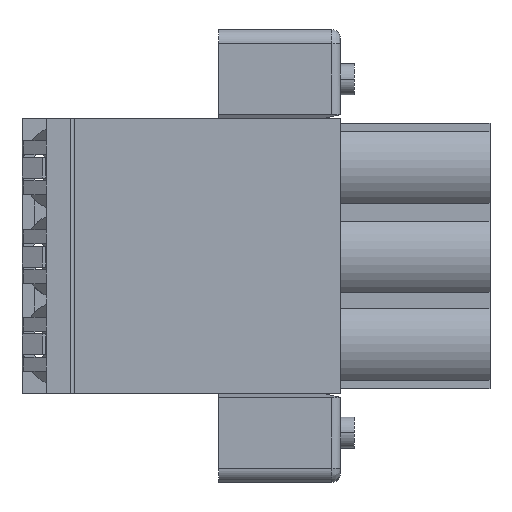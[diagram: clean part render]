
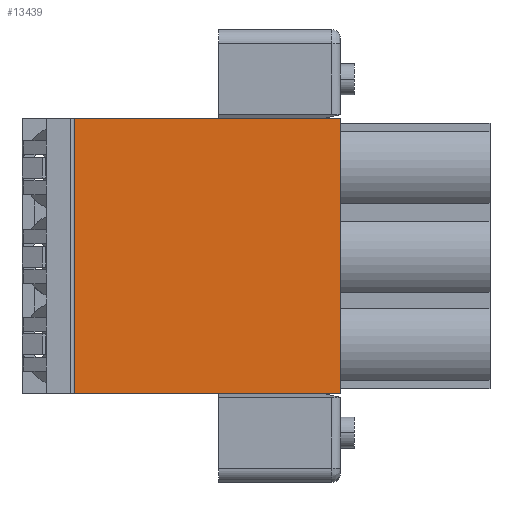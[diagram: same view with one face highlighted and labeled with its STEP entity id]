
A CAD part, front view. The second image highlights one B-rep face of the part: STEP entity #13439.
In plain terms, the highlighted planar face has unit normal (0, -1, 0).
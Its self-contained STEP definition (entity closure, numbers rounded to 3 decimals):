
#557=DIRECTION('',(0.,0.,-1.));
#558=VECTOR('',#557,15.86);
#559=CARTESIAN_POINT('',(18.302,1.,-5.08));
#560=LINE('',#559,#558);
#561=DIRECTION('',(-1.,0.,0.));
#562=VECTOR('',#561,15.3);
#563=CARTESIAN_POINT('',(18.302,1.,-20.94));
#564=LINE('',#563,#562);
#565=DIRECTION('',(0.,0.,1.));
#566=VECTOR('',#565,15.86);
#567=CARTESIAN_POINT('',(3.002,1.,-20.94));
#568=LINE('',#567,#566);
#569=DIRECTION('',(1.,0.,0.));
#570=VECTOR('',#569,15.3);
#571=CARTESIAN_POINT('',(3.002,1.,-5.08));
#572=LINE('',#571,#570);
#10341=CARTESIAN_POINT('',(3.002,1.,-20.94));
#10342=VERTEX_POINT('',#10341);
#10343=CARTESIAN_POINT('',(18.302,1.,-20.94));
#10344=VERTEX_POINT('',#10343);
#10425=CARTESIAN_POINT('',(3.002,1.,-5.08));
#10426=VERTEX_POINT('',#10425);
#10427=CARTESIAN_POINT('',(18.302,1.,-5.08));
#10428=VERTEX_POINT('',#10427);
#13425=CARTESIAN_POINT('',(10.652,1.,-20.63));
#13426=DIRECTION('',(0.,1.,0.));
#13427=DIRECTION('',(1.,0.,0.));
#13428=AXIS2_PLACEMENT_3D('',#13425,#13426,#13427);
#13429=PLANE('',#13428);
#13431=ORIENTED_EDGE('',*,*,#13430,.T.);
#13433=ORIENTED_EDGE('',*,*,#13432,.T.);
#13434=ORIENTED_EDGE('',*,*,#13415,.T.);
#13436=ORIENTED_EDGE('',*,*,#13435,.T.);
#13437=EDGE_LOOP('',(#13431,#13433,#13434,#13436));
#13438=FACE_OUTER_BOUND('',#13437,.F.);
#13439=ADVANCED_FACE('',(#13438),#13429,.F.);
#13415=EDGE_CURVE('',#10342,#10426,#568,.T.);
#13430=EDGE_CURVE('',#10428,#10344,#560,.T.);
#13432=EDGE_CURVE('',#10344,#10342,#564,.T.);
#13435=EDGE_CURVE('',#10426,#10428,#572,.T.);
